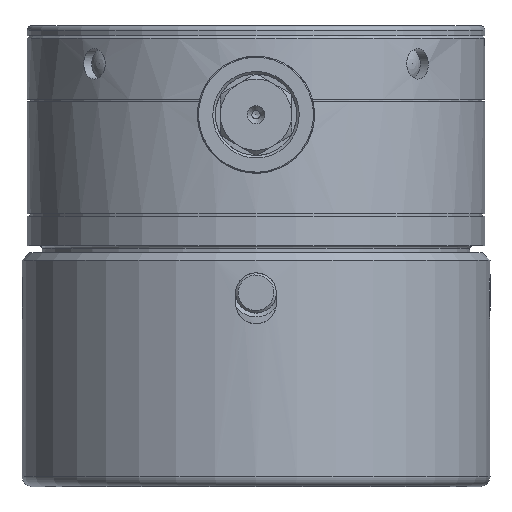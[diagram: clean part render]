
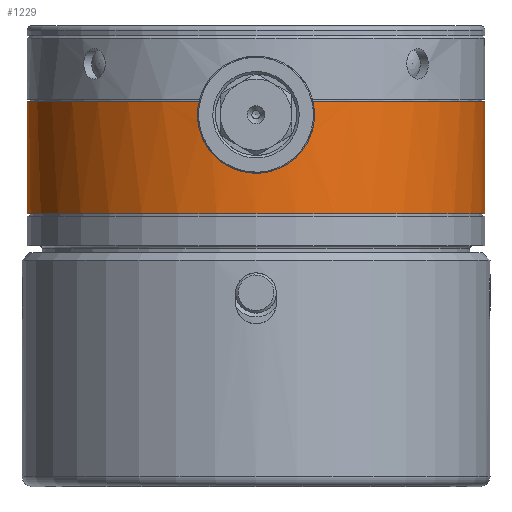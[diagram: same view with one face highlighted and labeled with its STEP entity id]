
A CAD part, left-side view. The second image highlights one B-rep face of the part: STEP entity #1229.
In plain terms, the highlighted cylindrical face has radius 45 mm (diameter 90 mm), a full revolution.
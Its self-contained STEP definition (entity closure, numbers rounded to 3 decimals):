
#1229 = ADVANCED_FACE( '', ( #2950, #2951 ), #2952, .T. );
#2950 = FACE_OUTER_BOUND( '', #5360, .T. );
#2951 = FACE_OUTER_BOUND( '', #5361, .T. );
#2952 = CYLINDRICAL_SURFACE( '', #5362, 45. );
#5360 = EDGE_LOOP( '', ( #9474, #9475 ) );
#5361 = EDGE_LOOP( '', ( #9476 ) );
#5362 = AXIS2_PLACEMENT_3D( '', #9477, #9478, #9479 );
#9474 = ORIENTED_EDGE( '', *, *, #14381, .F. );
#9475 = ORIENTED_EDGE( '', *, *, #14557, .F. );
#9476 = ORIENTED_EDGE( '', *, *, #14396, .T. );
#9477 = CARTESIAN_POINT( '', ( 0., 0., 54. ) );
#9478 = DIRECTION( '', ( 0., 0., 1. ) );
#9479 = DIRECTION( '', ( 1., 0., 0. ) );
#14381 = EDGE_CURVE( '', #17176, #17178, #17179, .T. );
#14396 = EDGE_CURVE( '', #17204, #17204, #17205, .T. );
#14557 = EDGE_CURVE( '', #17178, #17176, #17445, .T. );
#17176 = VERTEX_POINT( '', #23362 );
#17178 = VERTEX_POINT( '', #23365 );
#17179 = B_SPLINE_CURVE_WITH_KNOTS( '', 3, ( #23366, #23367, #23368, #23369, #23370, #23371, #23372, #23373, #23374, #23375, #23376, #23377, #23378, #23379, #23380, #23381, #23382, #23383, #23384, #23385, #23386, #23387, #23388, #23389, #23390, #23391, #23392, #23393, #23394, #23395, #23396, #23397, #23398, #23399, #23400, #23401, #23402, #23403, #23404, #23405, #23406, #23407, #23408, #23409, #23410, #23411, #23412, #23413, #23414, #23415, #23416, #23417, #23418, #23419 ), .UNSPECIFIED., .F., .F., ( 4, 2, 2, 2, 2, 2, 2, 2, 2, 2, 2, 2, 2, 2, 2, 2, 2, 2, 2, 2, 2, 2, 2, 2, 2, 2, 4 ), ( 0., 0.003, 0.004, 0.005, 0.006, 0.008, 0.01, 0.012, 0.013, 0.014, 0.015, 0.018, 0.019, 0.021, 0.022, 0.023, 0.026, 0.027, 0.028, 0.03, 0.031, 0.033, 0.035, 0.036, 0.037, 0.039, 0.041 ), .UNSPECIFIED. );
#17204 = VERTEX_POINT( '', #23502 );
#17205 = CIRCLE( '', #23503, 45. );
#17445 = CIRCLE( '', #24176, 45. );
#23362 = CARTESIAN_POINT( '', ( -43.578, 11.225, 45. ) );
#23365 = CARTESIAN_POINT( '', ( -43.578, -11.225, 45. ) );
#23366 = CARTESIAN_POINT( '', ( -43.578, 11.225, 45. ) );
#23367 = CARTESIAN_POINT( '', ( -43.529, 11.414, 44.153 ) );
#23368 = CARTESIAN_POINT( '', ( -43.505, 11.504, 43.3 ) );
#23369 = CARTESIAN_POINT( '', ( -43.506, 11.498, 42.013 ) );
#23370 = CARTESIAN_POINT( '', ( -43.513, 11.471, 41.581 ) );
#23371 = CARTESIAN_POINT( '', ( -43.54, 11.37, 40.72 ) );
#23372 = CARTESIAN_POINT( '', ( -43.56, 11.295, 40.296 ) );
#23373 = CARTESIAN_POINT( '', ( -43.61, 11.1, 39.463 ) );
#23374 = CARTESIAN_POINT( '', ( -43.64, 10.979, 39.052 ) );
#23375 = CARTESIAN_POINT( '', ( -43.711, 10.693, 38.246 ) );
#23376 = CARTESIAN_POINT( '', ( -43.752, 10.526, 37.847 ) );
#23377 = CARTESIAN_POINT( '', ( -43.886, 9.959, 36.686 ) );
#23378 = CARTESIAN_POINT( '', ( -43.989, 9.502, 35.967 ) );
#23379 = CARTESIAN_POINT( '', ( -44.151, 8.702, 34.969 ) );
#23380 = CARTESIAN_POINT( '', ( -44.208, 8.414, 34.649 ) );
#23381 = CARTESIAN_POINT( '', ( -44.319, 7.805, 34.044 ) );
#23382 = CARTESIAN_POINT( '', ( -44.374, 7.487, 33.76 ) );
#23383 = CARTESIAN_POINT( '', ( -44.481, 6.821, 33.231 ) );
#23384 = CARTESIAN_POINT( '', ( -44.533, 6.474, 32.986 ) );
#23385 = CARTESIAN_POINT( '', ( -44.632, 5.751, 32.532 ) );
#23386 = CARTESIAN_POINT( '', ( -44.68, 5.373, 32.323 ) );
#23387 = CARTESIAN_POINT( '', ( -44.81, 4.209, 31.763 ) );
#23388 = CARTESIAN_POINT( '', ( -44.879, 3.403, 31.482 ) );
#23389 = CARTESIAN_POINT( '', ( -44.951, 2.15, 31.195 ) );
#23390 = CARTESIAN_POINT( '', ( -44.969, 1.723, 31.122 ) );
#23391 = CARTESIAN_POINT( '', ( -44.994, 0.862, 31.024 ) );
#23392 = CARTESIAN_POINT( '', ( -45., 0.432, 31. ) );
#23393 = CARTESIAN_POINT( '', ( -45., -0.425, 31. ) );
#23394 = CARTESIAN_POINT( '', ( -44.994, -0.852, 31.024 ) );
#23395 = CARTESIAN_POINT( '', ( -44.97, -1.705, 31.119 ) );
#23396 = CARTESIAN_POINT( '', ( -44.951, -2.133, 31.191 ) );
#23397 = CARTESIAN_POINT( '', ( -44.879, -3.398, 31.48 ) );
#23398 = CARTESIAN_POINT( '', ( -44.81, -4.205, 31.762 ) );
#23399 = CARTESIAN_POINT( '', ( -44.681, -5.362, 32.318 ) );
#23400 = CARTESIAN_POINT( '', ( -44.634, -5.741, 32.526 ) );
#23401 = CARTESIAN_POINT( '', ( -44.534, -6.469, 32.982 ) );
#23402 = CARTESIAN_POINT( '', ( -44.482, -6.817, 33.229 ) );
#23403 = CARTESIAN_POINT( '', ( -44.375, -7.483, 33.758 ) );
#23404 = CARTESIAN_POINT( '', ( -44.32, -7.801, 34.04 ) );
#23405 = CARTESIAN_POINT( '', ( -44.209, -8.407, 34.641 ) );
#23406 = CARTESIAN_POINT( '', ( -44.153, -8.696, 34.962 ) );
#23407 = CARTESIAN_POINT( '', ( -43.989, -9.501, 35.964 ) );
#23408 = CARTESIAN_POINT( '', ( -43.886, -9.957, 36.683 ) );
#23409 = CARTESIAN_POINT( '', ( -43.754, -10.52, 37.835 ) );
#23410 = CARTESIAN_POINT( '', ( -43.713, -10.688, 38.234 ) );
#23411 = CARTESIAN_POINT( '', ( -43.641, -10.977, 39.046 ) );
#23412 = CARTESIAN_POINT( '', ( -43.61, -11.098, 39.457 ) );
#23413 = CARTESIAN_POINT( '', ( -43.56, -11.294, 40.289 ) );
#23414 = CARTESIAN_POINT( '', ( -43.54, -11.368, 40.71 ) );
#23415 = CARTESIAN_POINT( '', ( -43.514, -11.47, 41.563 ) );
#23416 = CARTESIAN_POINT( '', ( -43.507, -11.497, 41.996 ) );
#23417 = CARTESIAN_POINT( '', ( -43.504, -11.505, 43.296 ) );
#23418 = CARTESIAN_POINT( '', ( -43.529, -11.414, 44.153 ) );
#23419 = CARTESIAN_POINT( '', ( -43.578, -11.225, 45. ) );
#23502 = CARTESIAN_POINT( '', ( 45., 0., 23. ) );
#23503 = AXIS2_PLACEMENT_3D( '', #28653, #28654, #28655 );
#24176 = AXIS2_PLACEMENT_3D( '', #28776, #28777, #28778 );
#28653 = CARTESIAN_POINT( '', ( 0., 0., 23. ) );
#28654 = DIRECTION( '', ( 0., 0., 1. ) );
#28655 = DIRECTION( '', ( 1., 0., 0. ) );
#28776 = CARTESIAN_POINT( '', ( 0., 0., 45. ) );
#28777 = DIRECTION( '', ( 0., 0., 1. ) );
#28778 = DIRECTION( '', ( 1., 0., 0. ) );
